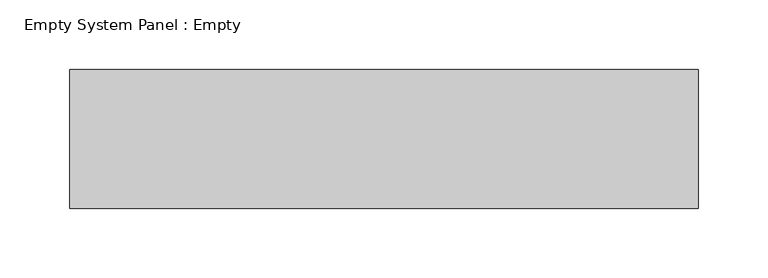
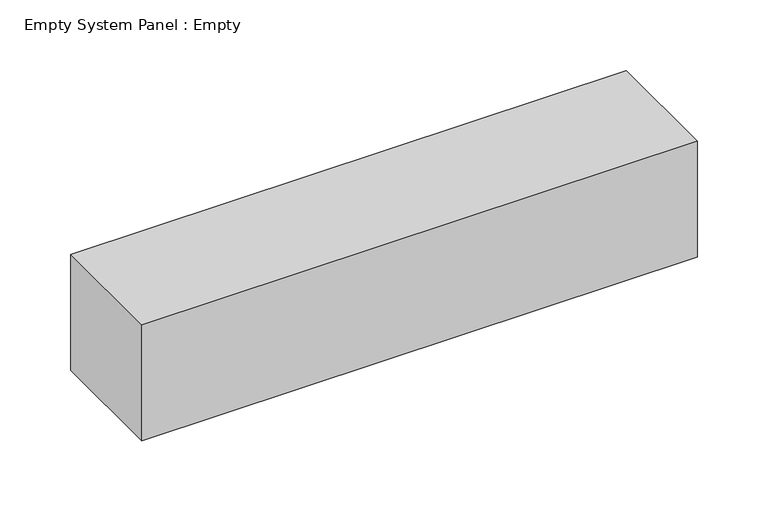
"""IFC4 building model written with IfcOpenShell, lengths in millimetres: plate geometry, Empty System Panel : Empty."""

from ifc_helpers import new_model, si_unit, origin, origin_with_axes, place, context, project, spatial, polyline, outline, extrude, source, transform, mapped, element, save


def empty_system_panel_empty_65b73787(model_context):
    return source(origin(), model_context, "Body", "SweptSolid", [
        extrude(outline(polyline([(226.25, -50.0), (-226.25, -50.0), (-226.25, 50.0), (226.25, 50.0), (226.25, -50.0)])), origin_with_axes(), (0.0, 0.0, 1.0), 100.0),
    ])


if __name__ == "__main__":
    model = new_model("IFC4")
    model_context = context("Model", 3, world=origin())
    ifc_project = project(units=[si_unit("LENGTHUNIT", "METRE", prefix="MILLI")], contexts=[model_context])
    site = spatial("IfcSite", under=ifc_project)
    building = spatial("IfcBuilding", under=site)
    placement = place(None, origin())
    empty_system_panel_empty_shape = empty_system_panel_empty_65b73787(model_context)
    element("IfcPlate", 1, ObjectType="Empty System Panel : Empty", at=placement, inside=building, context=model_context, shape_type="MappedRepresentation", body=[
        mapped(empty_system_panel_empty_shape, transform((0.0, 0.0, 0.0), x_axis=(1.0, 0.0, 0.0), y_axis=(0.0, 1.0, 0.0), z_axis=(0.0, 0.0, 1.0))),
    ])
    save(model, "model.ifc")
